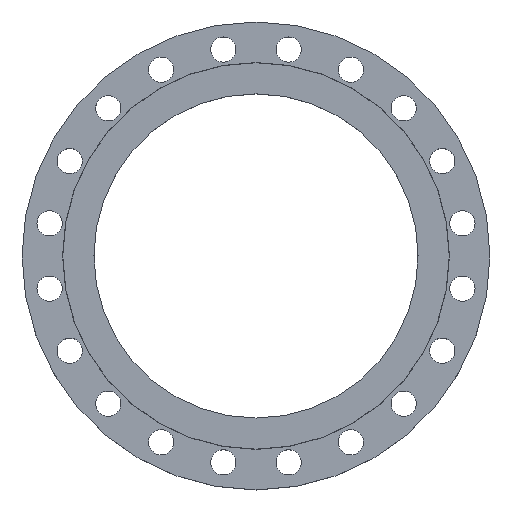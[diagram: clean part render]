
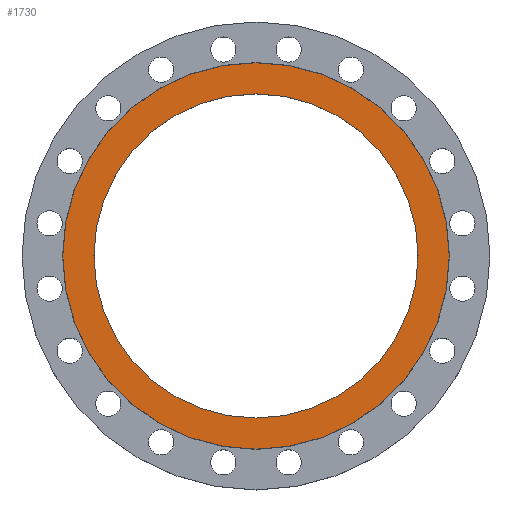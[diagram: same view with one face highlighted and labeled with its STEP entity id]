
A CAD part, top view. The second image highlights one B-rep face of the part: STEP entity #1730.
In plain terms, the highlighted planar face has unit normal (0, 0, 1).
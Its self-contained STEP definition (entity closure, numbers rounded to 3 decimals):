
#116 = EDGE_CURVE ( 'NONE', #1383, #1434, #1283, .T. ) ;
#146 = FACE_BOUND ( 'NONE', #1029, .T. ) ;
#204 = FACE_OUTER_BOUND ( 'NONE', #1200, .T. ) ;
#205 = DIRECTION ( 'NONE',  ( -1., 0., 0. ) ) ;
#207 = DIRECTION ( 'NONE',  ( 0., 0., -1. ) ) ;
#208 = CARTESIAN_POINT ( 'NONE',  ( 0., 0., 0. ) ) ;
#212 = DIRECTION ( 'NONE',  ( 0., 0., 1. ) ) ;
#231 = DIRECTION ( 'NONE',  ( 1., 0., 0. ) ) ;
#241 = AXIS2_PLACEMENT_3D ( 'NONE', #988, #984, #983 ) ;
#286 = CARTESIAN_POINT ( 'NONE',  ( -367.5, 0., 0. ) ) ;
#302 = CARTESIAN_POINT ( 'NONE',  ( -308.25, 0., 0. ) ) ;
#313 = CARTESIAN_POINT ( 'NONE',  ( 367.5, 0., 0. ) ) ;
#314 = PLANE ( 'NONE',  #1515 ) ;
#320 = CIRCLE ( 'NONE', #323, 367.5 ) ;
#323 = AXIS2_PLACEMENT_3D ( 'NONE', #725, #723, #721 ) ;
#327 = CARTESIAN_POINT ( 'NONE',  ( 0., 0., 0. ) ) ;
#357 = CARTESIAN_POINT ( 'NONE',  ( 308.25, 0., 0. ) ) ;
#385 = CIRCLE ( 'NONE', #424, 308.25 ) ;
#424 = AXIS2_PLACEMENT_3D ( 'NONE', #208, #207, #205 ) ;
#685 = DIRECTION ( 'NONE',  ( -1., 0., 0. ) ) ;
#686 = DIRECTION ( 'NONE',  ( 0., 0., -1. ) ) ;
#687 = CARTESIAN_POINT ( 'NONE',  ( 0., 0., 0. ) ) ;
#721 = DIRECTION ( 'NONE',  ( -1., 0., 0. ) ) ;
#723 = DIRECTION ( 'NONE',  ( 0., 0., -1. ) ) ;
#725 = CARTESIAN_POINT ( 'NONE',  ( 0., 0., 0. ) ) ;
#738 = EDGE_CURVE ( 'NONE', #1447, #1426, #320, .T. ) ;
#820 = EDGE_CURVE ( 'NONE', #1426, #1447, #1030, .T. ) ;
#983 = DIRECTION ( 'NONE',  ( -1., 0., 0. ) ) ;
#984 = DIRECTION ( 'NONE',  ( 0., 0., -1. ) ) ;
#988 = CARTESIAN_POINT ( 'NONE',  ( 0., 0., 0. ) ) ;
#1029 = EDGE_LOOP ( 'NONE', ( #1227, #1225 ) ) ;
#1030 = CIRCLE ( 'NONE', #1042, 367.5 ) ;
#1042 = AXIS2_PLACEMENT_3D ( 'NONE', #687, #686, #685 ) ;
#1200 = EDGE_LOOP ( 'NONE', ( #1224, #1223 ) ) ;
#1223 = ORIENTED_EDGE ( 'NONE', *, *, #820, .F. ) ;
#1224 = ORIENTED_EDGE ( 'NONE', *, *, #738, .F. ) ;
#1225 = ORIENTED_EDGE ( 'NONE', *, *, #116, .T. ) ;
#1227 = ORIENTED_EDGE ( 'NONE', *, *, #1521, .T. ) ;
#1283 = CIRCLE ( 'NONE', #241, 308.25 ) ;
#1383 = VERTEX_POINT ( 'NONE', #357 ) ;
#1426 = VERTEX_POINT ( 'NONE', #313 ) ;
#1434 = VERTEX_POINT ( 'NONE', #302 ) ;
#1447 = VERTEX_POINT ( 'NONE', #286 ) ;
#1515 = AXIS2_PLACEMENT_3D ( 'NONE', #327, #212, #231 ) ;
#1521 = EDGE_CURVE ( 'NONE', #1434, #1383, #385, .T. ) ;
#1730 = ADVANCED_FACE ( 'NONE', ( #146, #204 ), #314, .T. ) ;
